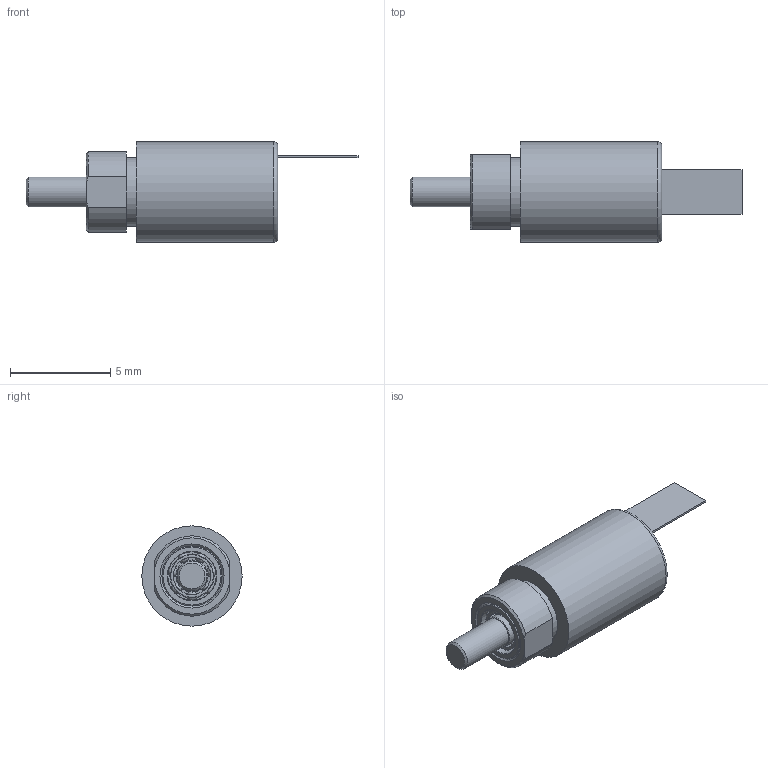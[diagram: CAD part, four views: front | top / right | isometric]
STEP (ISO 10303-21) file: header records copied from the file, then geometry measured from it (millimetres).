
FILE_DESCRIPTION(('STEP AP242'),'1');
FILE_NAME('L08L01 MES-3P.stp','2024-03-15T02:17:57',(' '),(' '),'Spatial InterOp 3D',' ',' ');
FILE_SCHEMA(('AP242_MANAGED_MODEL_BASED_3D_ENGINEERING_MIM_LF {1 0 10303 442 1 1 4}'));
Length unit declared in the file: millimetre
Products named in the file (7): ベアリング 310LY121; L-310_or; L-310_ball; L-310_cage; L-310_ir; L08L01 MES-3P
Assembly tree (13 placements, depth 3):
  L08L01 MES-3P
    ベアリング 310LY121  x2
      L-310_or
      L-310_ball
      L-310_cage
      L-310_ir
    L08L01 MES-3P
Bounding box: 16.55 x 5 x 5 mm (x, y, z)
Volume: 159.6 mm3; surface area: 368.1 mm2
Topology: 21 solids, 21 shells, 110 faces, 261 edges, 166 vertices
Faces by surface type: sphere 28, cylinder 27, torus 25, plane 21, cone 5, bspline 4
Full cylindrical faces by diameter (mm): 0.592 x1, 0.991 x1, 1 x2, 1.5 x1, 1.6 x4, 1.875 x2, 2.125 x2, 2.2 x1, 2.41 x4, 3 x4, 3.4 x2, 5 x1
Entity records: 2961 total; most frequent: CARTESIAN_POINT 727, DIRECTION 266, ORIENTED_EDGE 178, EDGE_LOOP 132, AXIS2_PLACEMENT_3D 128, FACE_OUTER_BOUND 100, EDGE_CURVE 89, VERTEX_POINT 80
